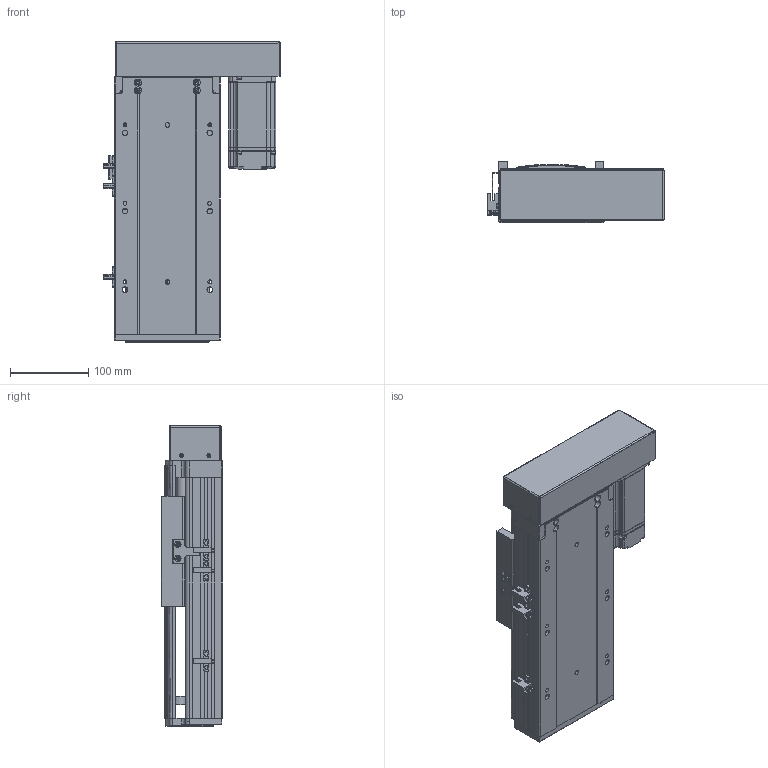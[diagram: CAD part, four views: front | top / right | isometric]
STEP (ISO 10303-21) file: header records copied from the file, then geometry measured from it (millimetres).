
FILE_DESCRIPTION (( 'STEP AP203' ), '1' );
FILE_NAME ('RY140-L1620-300-RK.SLDASM_100.step', '2021-02-22T02:54:02', ( '盈信电脑' ), ( '东莞市道滘镇水果街19号' ), 'SwSTEP 2.0', 'SolidWorks 2012', '' );
FILE_SCHEMA (( 'CONFIG_CONTROL_DESIGN' ));
Length unit declared in the file: millimetre
Products named in the file (14): RY140-L1620-300-RK.SLDASM_100; RY120外置感应片(140共用）; 覜茼ん672; 侂狟400W侜督萇儂; RY140蛌殏萇儂假蚾啣; RY140酘衵殏萇儂欶; 15; 滅袉蝶18-24; RY140綴裔啣; RY140转折电机端支撑座; 滅袉蝶18-10; RY140-300蛌殏倰第菁釱-RK_100; RY140-300蛌殏倰第奻裔啣-RK_100; RY140臏賑輸
Assembly tree (16 placements, depth 3):
  RY140-L1620-300-RK.SLDASM_100
    RY140-300蛌殏倰第菁釱-RK_100
    RY140臏賑輸
    RY140-300蛌殏倰第奻裔啣-RK_100
    RY140綴裔啣
    滅袉蝶18-24  x2
    滅袉蝶18-10
    RY140转折电机端支撑座
    RY140蛌殏萇儂假蚾啣
    侂狟400W侜督萇儂
      15
    RY140酘衵殏萇儂欶
    覜茼ん672  x3
    RY120外置感应片(140共用）
Bounding box: 225.2 x 78 x 383 mm (x, y, z)
Volume: 1853105.4 mm3; surface area: 613011.7 mm2
Topology: 15 solids, 15 shells, 2139 faces, 5864 edges, 3776 vertices
Faces by surface type: plane 1174, cylinder 718, cone 154, bspline 93
Entity records: 67307 total; most frequent: CARTESIAN_POINT 16315, ORIENTED_EDGE 10512, DIRECTION 9945, EDGE_CURVE 5256, VECTOR 3481, LINE 3481, VERTEX_POINT 3444, AXIS2_PLACEMENT_3D 3232
